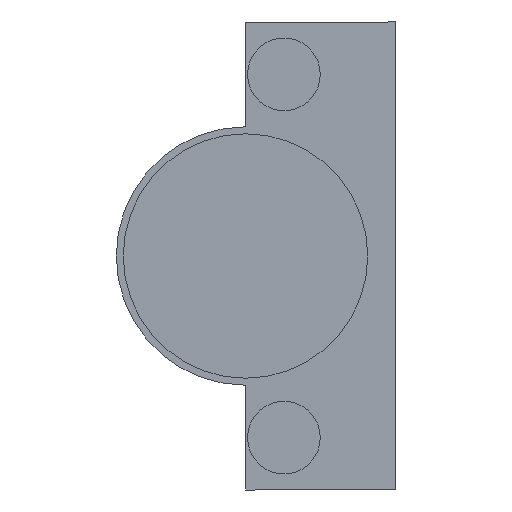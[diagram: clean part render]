
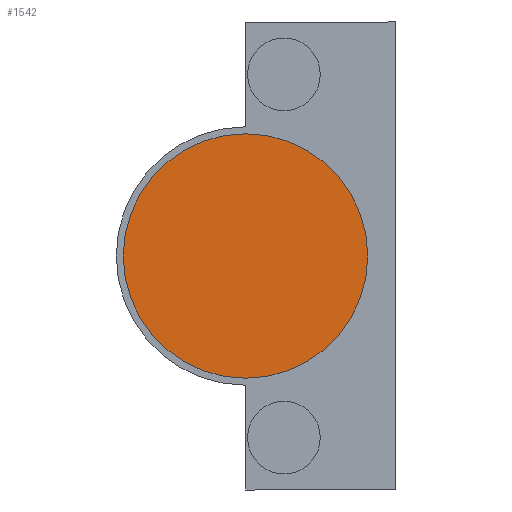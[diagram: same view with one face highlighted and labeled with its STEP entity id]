
A CAD part, front view. The second image highlights one B-rep face of the part: STEP entity #1542.
In plain terms, the highlighted planar face has unit normal (0, -1, 0).
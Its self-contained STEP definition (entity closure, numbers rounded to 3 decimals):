
#97 = CARTESIAN_POINT ( 'NONE',  ( -12., -12.6, 0. ) ) ;
#264 = CARTESIAN_POINT ( 'NONE',  ( 5.5, -12.6, 0. ) ) ;
#282 = AXIS2_PLACEMENT_3D ( 'NONE', #920, #1066, #285 ) ;
#285 = DIRECTION ( 'NONE',  ( 1., 0., 0. ) ) ;
#309 = CIRCLE ( 'NONE', #492, 17.5 ) ;
#347 = VERTEX_POINT ( 'NONE', #97 ) ;
#390 = ORIENTED_EDGE ( 'NONE', *, *, #443, .T. ) ;
#443 = EDGE_CURVE ( 'NONE', #749, #347, #1271, .T. ) ;
#492 = AXIS2_PLACEMENT_3D ( 'NONE', #264, #1042, #1623 ) ;
#494 = CARTESIAN_POINT ( 'NONE',  ( 23., -12.6, 0. ) ) ;
#497 = FACE_OUTER_BOUND ( 'NONE', #557, .T. ) ;
#557 = EDGE_LOOP ( 'NONE', ( #1239, #390 ) ) ;
#749 = VERTEX_POINT ( 'NONE', #494 ) ;
#809 = CARTESIAN_POINT ( 'NONE',  ( 5.5, -12.6, 0. ) ) ;
#920 = CARTESIAN_POINT ( 'NONE',  ( 5.5, -12.6, 0. ) ) ;
#1042 = DIRECTION ( 'NONE',  ( 0., -1., 0. ) ) ;
#1066 = DIRECTION ( 'NONE',  ( 0., -1., 0. ) ) ;
#1096 = AXIS2_PLACEMENT_3D ( 'NONE', #809, #1610, #1164 ) ;
#1118 = PLANE ( 'NONE',  #282 ) ;
#1149 = EDGE_CURVE ( 'NONE', #347, #749, #309, .T. ) ;
#1164 = DIRECTION ( 'NONE',  ( 1., 0., 0. ) ) ;
#1239 = ORIENTED_EDGE ( 'NONE', *, *, #1149, .T. ) ;
#1271 = CIRCLE ( 'NONE', #1096, 17.5 ) ;
#1542 = ADVANCED_FACE ( 'NONE', ( #497 ), #1118, .T. ) ;
#1610 = DIRECTION ( 'NONE',  ( 0., -1., 0. ) ) ;
#1623 = DIRECTION ( 'NONE',  ( 1., 0., 0. ) ) ;
